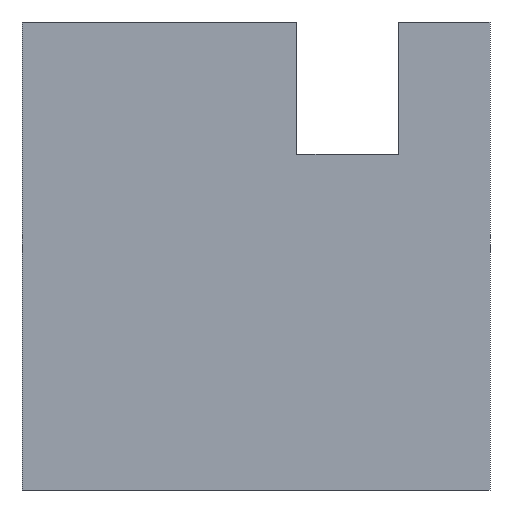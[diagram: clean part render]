
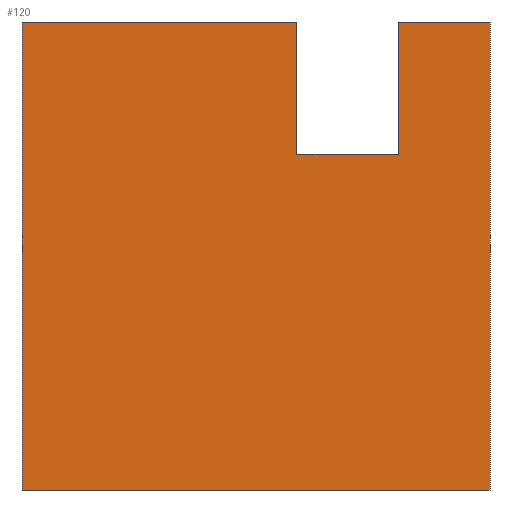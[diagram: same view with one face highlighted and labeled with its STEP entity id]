
A CAD part, left-side view. The second image highlights one B-rep face of the part: STEP entity #120.
In plain terms, the highlighted planar face has unit normal (-1, 0, 0).
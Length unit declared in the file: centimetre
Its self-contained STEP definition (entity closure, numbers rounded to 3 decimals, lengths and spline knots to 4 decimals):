
#7 = LINE ( 'NONE', #345, #275 ) ;
#10 = LINE ( 'NONE', #109, #209 ) ;
#20 = VERTEX_POINT ( 'NONE', #374 ) ;
#25 = EDGE_CURVE ( 'NONE', #186, #358, #340, .T. ) ;
#34 = CARTESIAN_POINT ( 'NONE',  ( 0., 1000., 0. ) ) ;
#42 = CARTESIAN_POINT ( 'NONE',  ( 0., 1000., 717.8869 ) ) ;
#52 = EDGE_CURVE ( 'NONE', #386, #429, #170, .T. ) ;
#71 = ORIENTED_EDGE ( 'NONE', *, *, #420, .F. ) ;
#77 = CARTESIAN_POINT ( 'NONE',  ( 0., 0., 1000. ) ) ;
#78 = DIRECTION ( 'NONE',  ( 0., -1., 0. ) ) ;
#81 = VECTOR ( 'NONE', #376, 100. ) ;
#85 = ORIENTED_EDGE ( 'NONE', *, *, #298, .F. ) ;
#95 = CARTESIAN_POINT ( 'NONE',  ( 0., 1000., 1000. ) ) ;
#99 = LINE ( 'NONE', #129, #267 ) ;
#100 = ORIENTED_EDGE ( 'NONE', *, *, #339, .T. ) ;
#109 = CARTESIAN_POINT ( 'NONE',  ( 0., 1000., 0. ) ) ;
#110 = ORIENTED_EDGE ( 'NONE', *, *, #52, .F. ) ;
#113 = DIRECTION ( 'NONE',  ( 0., 0., 1. ) ) ;
#116 = AXIS2_PLACEMENT_3D ( 'NONE', #148, #281, #278 ) ;
#117 = EDGE_CURVE ( 'NONE', #343, #429, #10, .T. ) ;
#120 = ADVANCED_FACE ( 'NONE', ( #284 ), #250, .F. ) ;
#129 = CARTESIAN_POINT ( 'NONE',  ( 0., 1000., 1000. ) ) ;
#146 = CARTESIAN_POINT ( 'NONE',  ( 0., 0., 0. ) ) ;
#148 = CARTESIAN_POINT ( 'NONE',  ( 0., 1000., 1000. ) ) ;
#156 = ORIENTED_EDGE ( 'NONE', *, *, #162, .F. ) ;
#162 = EDGE_CURVE ( 'NONE', #20, #213, #7, .T. ) ;
#170 = LINE ( 'NONE', #77, #227 ) ;
#179 = CARTESIAN_POINT ( 'NONE',  ( 0., 412.7625, 717.8869 ) ) ;
#186 = VERTEX_POINT ( 'NONE', #311 ) ;
#192 = ORIENTED_EDGE ( 'NONE', *, *, #117, .T. ) ;
#194 = CARTESIAN_POINT ( 'NONE',  ( 0., 194.943, 1000. ) ) ;
#195 = VECTOR ( 'NONE', #199, 100. ) ;
#199 = DIRECTION ( 'NONE',  ( 0., 0., -1. ) ) ;
#205 = DIRECTION ( 'NONE',  ( 0., -1., 0. ) ) ;
#209 = VECTOR ( 'NONE', #379, 100. ) ;
#213 = VERTEX_POINT ( 'NONE', #194 ) ;
#227 = VECTOR ( 'NONE', #342, 100. ) ;
#237 = LINE ( 'NONE', #361, #195 ) ;
#242 = ORIENTED_EDGE ( 'NONE', *, *, #25, .T. ) ;
#243 = EDGE_CURVE ( 'NONE', #256, #358, #304, .T. ) ;
#250 = PLANE ( 'NONE',  #116 ) ;
#252 = LINE ( 'NONE', #42, #318 ) ;
#256 = VERTEX_POINT ( 'NONE', #95 ) ;
#267 = VECTOR ( 'NONE', #205, 100. ) ;
#275 = VECTOR ( 'NONE', #113, 100. ) ;
#278 = DIRECTION ( 'NONE',  ( 0., 0., -1. ) ) ;
#281 = DIRECTION ( 'NONE',  ( 1., 0., 0. ) ) ;
#282 = VECTOR ( 'NONE', #430, 100. ) ;
#284 = FACE_OUTER_BOUND ( 'NONE', #356, .T. ) ;
#290 = ORIENTED_EDGE ( 'NONE', *, *, #243, .F. ) ;
#298 = EDGE_CURVE ( 'NONE', #213, #386, #99, .T. ) ;
#304 = LINE ( 'NONE', #405, #282 ) ;
#311 = CARTESIAN_POINT ( 'NONE',  ( 0., 412.7625, 717.8869 ) ) ;
#313 = CARTESIAN_POINT ( 'NONE',  ( 0., 412.7625, 1000. ) ) ;
#318 = VECTOR ( 'NONE', #78, 100. ) ;
#339 = EDGE_CURVE ( 'NONE', #256, #343, #237, .T. ) ;
#340 = LINE ( 'NONE', #179, #81 ) ;
#342 = DIRECTION ( 'NONE',  ( 0., 0., -1. ) ) ;
#343 = VERTEX_POINT ( 'NONE', #34 ) ;
#345 = CARTESIAN_POINT ( 'NONE',  ( 0., 194.943, 717.8869 ) ) ;
#356 = EDGE_LOOP ( 'NONE', ( #71, #242, #290, #100, #192, #110, #85, #156 ) ) ;
#358 = VERTEX_POINT ( 'NONE', #313 ) ;
#361 = CARTESIAN_POINT ( 'NONE',  ( 0., 1000., 1000. ) ) ;
#374 = CARTESIAN_POINT ( 'NONE',  ( 0., 194.943, 717.8869 ) ) ;
#376 = DIRECTION ( 'NONE',  ( 0., 0., 1. ) ) ;
#379 = DIRECTION ( 'NONE',  ( 0., -1., 0. ) ) ;
#386 = VERTEX_POINT ( 'NONE', #390 ) ;
#390 = CARTESIAN_POINT ( 'NONE',  ( 0., 0., 1000. ) ) ;
#405 = CARTESIAN_POINT ( 'NONE',  ( 0., 1000., 1000. ) ) ;
#420 = EDGE_CURVE ( 'NONE', #186, #20, #252, .T. ) ;
#429 = VERTEX_POINT ( 'NONE', #146 ) ;
#430 = DIRECTION ( 'NONE',  ( 0., -1., 0. ) ) ;
